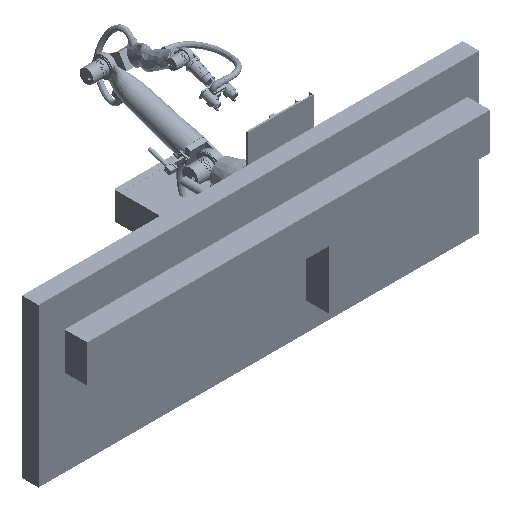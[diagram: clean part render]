
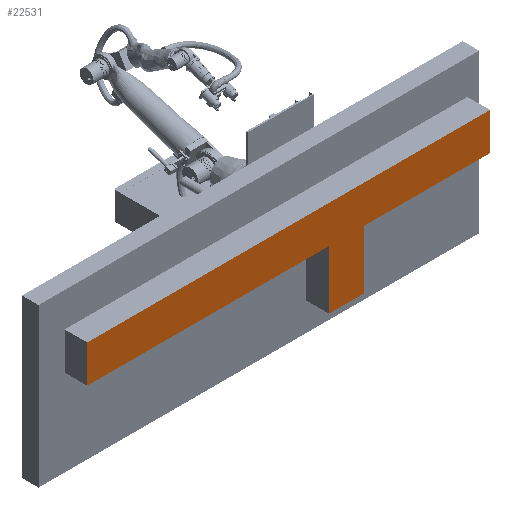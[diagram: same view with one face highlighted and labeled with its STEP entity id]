
A CAD part, isometric view. The second image highlights one B-rep face of the part: STEP entity #22531.
In plain terms, the highlighted planar face has unit normal (0, -1, 0).
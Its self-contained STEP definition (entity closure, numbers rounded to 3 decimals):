
#20557 = PLANE('',#20558);
#20558 = AXIS2_PLACEMENT_3D('',#20559,#20560,#20561);
#20559 = CARTESIAN_POINT('',(2527.,-1024.,-106.5));
#20560 = DIRECTION('',(1.,0.,0.));
#20561 = DIRECTION('',(0.,0.,1.));
#20585 = PLANE('',#20586);
#20586 = AXIS2_PLACEMENT_3D('',#20587,#20588,#20589);
#20587 = CARTESIAN_POINT('',(-2353.65,-1024.,346.5));
#20588 = DIRECTION('',(0.,0.,1.));
#20589 = DIRECTION('',(1.,0.,0.));
#20613 = PLANE('',#20614);
#20614 = AXIS2_PLACEMENT_3D('',#20615,#20616,#20617);
#20615 = CARTESIAN_POINT('',(-2353.65,-1024.,-106.5));
#20616 = DIRECTION('',(1.,0.,0.));
#20617 = DIRECTION('',(0.,0.,1.));
#20641 = PLANE('',#20642);
#20642 = AXIS2_PLACEMENT_3D('',#20643,#20644,#20645);
#20643 = CARTESIAN_POINT('',(-2353.65,-1024.,-106.5));
#20644 = DIRECTION('',(0.,0.,1.));
#20645 = DIRECTION('',(1.,0.,0.));
#20669 = PLANE('',#20670);
#20670 = AXIS2_PLACEMENT_3D('',#20671,#20672,#20673);
#20671 = CARTESIAN_POINT('',(576.25,-1024.,-816.));
#20672 = DIRECTION('',(1.,0.,0.));
#20673 = DIRECTION('',(0.,0.,1.));
#20697 = PLANE('',#20698);
#20698 = AXIS2_PLACEMENT_3D('',#20699,#20700,#20701);
#20699 = CARTESIAN_POINT('',(576.25,-1024.,-816.));
#20700 = DIRECTION('',(0.,0.,1.));
#20701 = DIRECTION('',(1.,0.,0.));
#20725 = PLANE('',#20726);
#20726 = AXIS2_PLACEMENT_3D('',#20727,#20728,#20729);
#20727 = CARTESIAN_POINT('',(996.75,-1024.,-816.));
#20728 = DIRECTION('',(1.,0.,0.));
#20729 = DIRECTION('',(0.,0.,1.));
#20751 = PLANE('',#20752);
#20752 = AXIS2_PLACEMENT_3D('',#20753,#20754,#20755);
#20753 = CARTESIAN_POINT('',(-2353.65,-1024.,-106.5));
#20754 = DIRECTION('',(0.,0.,1.));
#20755 = DIRECTION('',(1.,0.,0.));
#21236 = EDGE_CURVE('',#21237,#21239,#21241,.T.);
#21237 = VERTEX_POINT('',#21238);
#21238 = CARTESIAN_POINT('',(2527.,-1024.,-106.5));
#21239 = VERTEX_POINT('',#21240);
#21240 = CARTESIAN_POINT('',(2527.,-1024.,346.5));
#21241 = SURFACE_CURVE('',#21242,(#21246,#21253),.PCURVE_S1.);
#21242 = LINE('',#21243,#21244);
#21243 = CARTESIAN_POINT('',(2527.,-1024.,-106.5));
#21244 = VECTOR('',#21245,1.);
#21245 = DIRECTION('',(0.,0.,1.));
#21246 = PCURVE('',#20557,#21247);
#21247 = DEFINITIONAL_REPRESENTATION('',(#21248),#21252);
#21248 = LINE('',#21249,#21250);
#21249 = CARTESIAN_POINT('',(0.,0.));
#21250 = VECTOR('',#21251,1.);
#21251 = DIRECTION('',(1.,0.));
#21252 = ( GEOMETRIC_REPRESENTATION_CONTEXT(2) 
PARAMETRIC_REPRESENTATION_CONTEXT() REPRESENTATION_CONTEXT('2D SPACE',''
  ) );
#21253 = PCURVE('',#21254,#21259);
#21254 = PLANE('',#21255);
#21255 = AXIS2_PLACEMENT_3D('',#21256,#21257,#21258);
#21256 = CARTESIAN_POINT('',(-2353.65,-1024.,-106.5));
#21257 = DIRECTION('',(0.,1.,0.));
#21258 = DIRECTION('',(0.,0.,1.));
#21259 = DEFINITIONAL_REPRESENTATION('',(#21260),#21264);
#21260 = LINE('',#21261,#21262);
#21261 = CARTESIAN_POINT('',(0.,4880.65));
#21262 = VECTOR('',#21263,1.);
#21263 = DIRECTION('',(1.,0.));
#21264 = ( GEOMETRIC_REPRESENTATION_CONTEXT(2) 
PARAMETRIC_REPRESENTATION_CONTEXT() REPRESENTATION_CONTEXT('2D SPACE',''
  ) );
#21314 = VERTEX_POINT('',#21315);
#21315 = CARTESIAN_POINT('',(996.75,-1024.,-106.5));
#21334 = EDGE_CURVE('',#21314,#21237,#21335,.T.);
#21335 = SURFACE_CURVE('',#21336,(#21340,#21347),.PCURVE_S1.);
#21336 = LINE('',#21337,#21338);
#21337 = CARTESIAN_POINT('',(-2353.65,-1024.,-106.5));
#21338 = VECTOR('',#21339,1.);
#21339 = DIRECTION('',(1.,0.,0.));
#21340 = PCURVE('',#20751,#21341);
#21341 = DEFINITIONAL_REPRESENTATION('',(#21342),#21346);
#21342 = LINE('',#21343,#21344);
#21343 = CARTESIAN_POINT('',(0.,0.));
#21344 = VECTOR('',#21345,1.);
#21345 = DIRECTION('',(1.,0.));
#21346 = ( GEOMETRIC_REPRESENTATION_CONTEXT(2) 
PARAMETRIC_REPRESENTATION_CONTEXT() REPRESENTATION_CONTEXT('2D SPACE',''
  ) );
#21347 = PCURVE('',#21254,#21348);
#21348 = DEFINITIONAL_REPRESENTATION('',(#21349),#21353);
#21349 = LINE('',#21350,#21351);
#21350 = CARTESIAN_POINT('',(0.,0.));
#21351 = VECTOR('',#21352,1.);
#21352 = DIRECTION('',(0.,1.));
#21353 = ( GEOMETRIC_REPRESENTATION_CONTEXT(2) 
PARAMETRIC_REPRESENTATION_CONTEXT() REPRESENTATION_CONTEXT('2D SPACE',''
  ) );
#21359 = EDGE_CURVE('',#21360,#21314,#21362,.T.);
#21360 = VERTEX_POINT('',#21361);
#21361 = CARTESIAN_POINT('',(996.75,-1024.,-816.));
#21362 = SURFACE_CURVE('',#21363,(#21367,#21374),.PCURVE_S1.);
#21363 = LINE('',#21364,#21365);
#21364 = CARTESIAN_POINT('',(996.75,-1024.,-816.));
#21365 = VECTOR('',#21366,1.);
#21366 = DIRECTION('',(0.,0.,1.));
#21367 = PCURVE('',#20725,#21368);
#21368 = DEFINITIONAL_REPRESENTATION('',(#21369),#21373);
#21369 = LINE('',#21370,#21371);
#21370 = CARTESIAN_POINT('',(0.,0.));
#21371 = VECTOR('',#21372,1.);
#21372 = DIRECTION('',(1.,0.));
#21373 = ( GEOMETRIC_REPRESENTATION_CONTEXT(2) 
PARAMETRIC_REPRESENTATION_CONTEXT() REPRESENTATION_CONTEXT('2D SPACE',''
  ) );
#21374 = PCURVE('',#21254,#21375);
#21375 = DEFINITIONAL_REPRESENTATION('',(#21376),#21380);
#21376 = LINE('',#21377,#21378);
#21377 = CARTESIAN_POINT('',(-709.5,3350.4));
#21378 = VECTOR('',#21379,1.);
#21379 = DIRECTION('',(1.,0.));
#21380 = ( GEOMETRIC_REPRESENTATION_CONTEXT(2) 
PARAMETRIC_REPRESENTATION_CONTEXT() REPRESENTATION_CONTEXT('2D SPACE',''
  ) );
#21409 = VERTEX_POINT('',#21410);
#21410 = CARTESIAN_POINT('',(576.25,-1024.,-816.));
#21431 = EDGE_CURVE('',#21409,#21360,#21432,.T.);
#21432 = SURFACE_CURVE('',#21433,(#21437,#21444),.PCURVE_S1.);
#21433 = LINE('',#21434,#21435);
#21434 = CARTESIAN_POINT('',(576.25,-1024.,-816.));
#21435 = VECTOR('',#21436,1.);
#21436 = DIRECTION('',(1.,0.,0.));
#21437 = PCURVE('',#20697,#21438);
#21438 = DEFINITIONAL_REPRESENTATION('',(#21439),#21443);
#21439 = LINE('',#21440,#21441);
#21440 = CARTESIAN_POINT('',(0.,0.));
#21441 = VECTOR('',#21442,1.);
#21442 = DIRECTION('',(1.,0.));
#21443 = ( GEOMETRIC_REPRESENTATION_CONTEXT(2) 
PARAMETRIC_REPRESENTATION_CONTEXT() REPRESENTATION_CONTEXT('2D SPACE',''
  ) );
#21444 = PCURVE('',#21254,#21445);
#21445 = DEFINITIONAL_REPRESENTATION('',(#21446),#21450);
#21446 = LINE('',#21447,#21448);
#21447 = CARTESIAN_POINT('',(-709.5,2929.9));
#21448 = VECTOR('',#21449,1.);
#21449 = DIRECTION('',(0.,1.));
#21450 = ( GEOMETRIC_REPRESENTATION_CONTEXT(2) 
PARAMETRIC_REPRESENTATION_CONTEXT() REPRESENTATION_CONTEXT('2D SPACE',''
  ) );
#21457 = EDGE_CURVE('',#21409,#21458,#21460,.T.);
#21458 = VERTEX_POINT('',#21459);
#21459 = CARTESIAN_POINT('',(576.25,-1024.,-106.5));
#21460 = SURFACE_CURVE('',#21461,(#21465,#21472),.PCURVE_S1.);
#21461 = LINE('',#21462,#21463);
#21462 = CARTESIAN_POINT('',(576.25,-1024.,-816.));
#21463 = VECTOR('',#21464,1.);
#21464 = DIRECTION('',(0.,0.,1.));
#21465 = PCURVE('',#20669,#21466);
#21466 = DEFINITIONAL_REPRESENTATION('',(#21467),#21471);
#21467 = LINE('',#21468,#21469);
#21468 = CARTESIAN_POINT('',(0.,0.));
#21469 = VECTOR('',#21470,1.);
#21470 = DIRECTION('',(1.,0.));
#21471 = ( GEOMETRIC_REPRESENTATION_CONTEXT(2) 
PARAMETRIC_REPRESENTATION_CONTEXT() REPRESENTATION_CONTEXT('2D SPACE',''
  ) );
#21472 = PCURVE('',#21254,#21473);
#21473 = DEFINITIONAL_REPRESENTATION('',(#21474),#21478);
#21474 = LINE('',#21475,#21476);
#21475 = CARTESIAN_POINT('',(-709.5,2929.9));
#21476 = VECTOR('',#21477,1.);
#21477 = DIRECTION('',(1.,0.));
#21478 = ( GEOMETRIC_REPRESENTATION_CONTEXT(2) 
PARAMETRIC_REPRESENTATION_CONTEXT() REPRESENTATION_CONTEXT('2D SPACE',''
  ) );
#21506 = VERTEX_POINT('',#21507);
#21507 = CARTESIAN_POINT('',(-2353.65,-1024.,-106.5));
#21528 = EDGE_CURVE('',#21506,#21458,#21529,.T.);
#21529 = SURFACE_CURVE('',#21530,(#21534,#21541),.PCURVE_S1.);
#21530 = LINE('',#21531,#21532);
#21531 = CARTESIAN_POINT('',(-2353.65,-1024.,-106.5));
#21532 = VECTOR('',#21533,1.);
#21533 = DIRECTION('',(1.,0.,0.));
#21534 = PCURVE('',#20641,#21535);
#21535 = DEFINITIONAL_REPRESENTATION('',(#21536),#21540);
#21536 = LINE('',#21537,#21538);
#21537 = CARTESIAN_POINT('',(0.,0.));
#21538 = VECTOR('',#21539,1.);
#21539 = DIRECTION('',(1.,0.));
#21540 = ( GEOMETRIC_REPRESENTATION_CONTEXT(2) 
PARAMETRIC_REPRESENTATION_CONTEXT() REPRESENTATION_CONTEXT('2D SPACE',''
  ) );
#21541 = PCURVE('',#21254,#21542);
#21542 = DEFINITIONAL_REPRESENTATION('',(#21543),#21547);
#21543 = LINE('',#21544,#21545);
#21544 = CARTESIAN_POINT('',(0.,0.));
#21545 = VECTOR('',#21546,1.);
#21546 = DIRECTION('',(0.,1.));
#21547 = ( GEOMETRIC_REPRESENTATION_CONTEXT(2) 
PARAMETRIC_REPRESENTATION_CONTEXT() REPRESENTATION_CONTEXT('2D SPACE',''
  ) );
#21553 = EDGE_CURVE('',#21506,#21554,#21556,.T.);
#21554 = VERTEX_POINT('',#21555);
#21555 = CARTESIAN_POINT('',(-2353.65,-1024.,346.5));
#21556 = SURFACE_CURVE('',#21557,(#21561,#21568),.PCURVE_S1.);
#21557 = LINE('',#21558,#21559);
#21558 = CARTESIAN_POINT('',(-2353.65,-1024.,-106.5));
#21559 = VECTOR('',#21560,1.);
#21560 = DIRECTION('',(0.,0.,1.));
#21561 = PCURVE('',#20613,#21562);
#21562 = DEFINITIONAL_REPRESENTATION('',(#21563),#21567);
#21563 = LINE('',#21564,#21565);
#21564 = CARTESIAN_POINT('',(0.,0.));
#21565 = VECTOR('',#21566,1.);
#21566 = DIRECTION('',(1.,0.));
#21567 = ( GEOMETRIC_REPRESENTATION_CONTEXT(2) 
PARAMETRIC_REPRESENTATION_CONTEXT() REPRESENTATION_CONTEXT('2D SPACE',''
  ) );
#21568 = PCURVE('',#21254,#21569);
#21569 = DEFINITIONAL_REPRESENTATION('',(#21570),#21574);
#21570 = LINE('',#21571,#21572);
#21571 = CARTESIAN_POINT('',(0.,0.));
#21572 = VECTOR('',#21573,1.);
#21573 = DIRECTION('',(1.,0.));
#21574 = ( GEOMETRIC_REPRESENTATION_CONTEXT(2) 
PARAMETRIC_REPRESENTATION_CONTEXT() REPRESENTATION_CONTEXT('2D SPACE',''
  ) );
#21603 = EDGE_CURVE('',#21554,#21239,#21604,.T.);
#21604 = SURFACE_CURVE('',#21605,(#21609,#21616),.PCURVE_S1.);
#21605 = LINE('',#21606,#21607);
#21606 = CARTESIAN_POINT('',(-2353.65,-1024.,346.5));
#21607 = VECTOR('',#21608,1.);
#21608 = DIRECTION('',(1.,0.,0.));
#21609 = PCURVE('',#20585,#21610);
#21610 = DEFINITIONAL_REPRESENTATION('',(#21611),#21615);
#21611 = LINE('',#21612,#21613);
#21612 = CARTESIAN_POINT('',(0.,0.));
#21613 = VECTOR('',#21614,1.);
#21614 = DIRECTION('',(1.,0.));
#21615 = ( GEOMETRIC_REPRESENTATION_CONTEXT(2) 
PARAMETRIC_REPRESENTATION_CONTEXT() REPRESENTATION_CONTEXT('2D SPACE',''
  ) );
#21616 = PCURVE('',#21254,#21617);
#21617 = DEFINITIONAL_REPRESENTATION('',(#21618),#21622);
#21618 = LINE('',#21619,#21620);
#21619 = CARTESIAN_POINT('',(453.,0.));
#21620 = VECTOR('',#21621,1.);
#21621 = DIRECTION('',(0.,1.));
#21622 = ( GEOMETRIC_REPRESENTATION_CONTEXT(2) 
PARAMETRIC_REPRESENTATION_CONTEXT() REPRESENTATION_CONTEXT('2D SPACE',''
  ) );
#22531 = ADVANCED_FACE('',(#22532),#21254,.F.);
#22532 = FACE_BOUND('',#22533,.F.);
#22533 = EDGE_LOOP('',(#22534,#22535,#22536,#22537,#22538,#22539,#22540,
    #22541));
#22534 = ORIENTED_EDGE('',*,*,#21528,.F.);
#22535 = ORIENTED_EDGE('',*,*,#21553,.T.);
#22536 = ORIENTED_EDGE('',*,*,#21603,.T.);
#22537 = ORIENTED_EDGE('',*,*,#21236,.F.);
#22538 = ORIENTED_EDGE('',*,*,#21334,.F.);
#22539 = ORIENTED_EDGE('',*,*,#21359,.F.);
#22540 = ORIENTED_EDGE('',*,*,#21431,.F.);
#22541 = ORIENTED_EDGE('',*,*,#21457,.T.);
